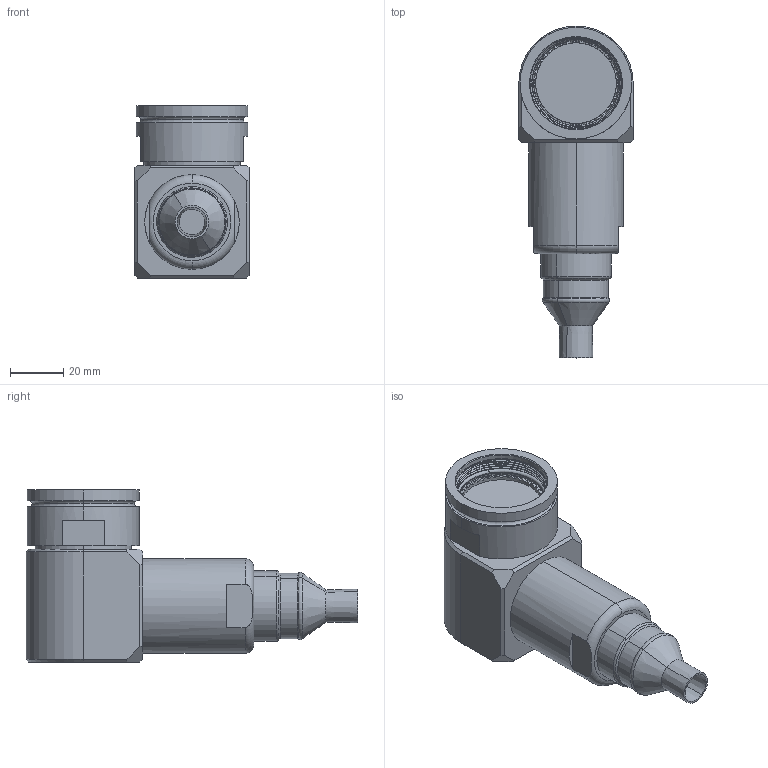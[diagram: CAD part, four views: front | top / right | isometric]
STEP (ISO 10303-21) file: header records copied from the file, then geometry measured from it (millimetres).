
FILE_DESCRIPTION (( 'STEP AP214' ), '1' );
FILE_NAME ('Q38EBSHELL-90X-23-XXXX-HX.STEP', '2025-09-19T15:44:24', ( '' ), ( '' ), 'SwSTEP 2.0', 'SolidWorks 2024', '' );
FILE_SCHEMA (( 'AUTOMOTIVE_DESIGN' ));
Length unit declared in the file: millimetre
Products named in the file (1): Q38EBSHELL-90X-23-XXXX-HX
Bounding box: 42.8 x 124.09 x 64.41 mm (x, y, z)
Volume: 139980.8 mm3; surface area: 25571.1 mm2
Topology: 2 solids, 4 shells, 301 faces, 799 edges, 521 vertices
Faces by surface type: plane 205, cylinder 46, cone 27, torus 14, bspline 9
Entity records: 12175 total; most frequent: CARTESIAN_POINT 5030, ORIENTED_EDGE 1598, DIRECTION 1463, EDGE_CURVE 799, AXIS2_PLACEMENT_3D 586, VERTEX_POINT 521, EDGE_LOOP 318, ADVANCED_FACE 301
